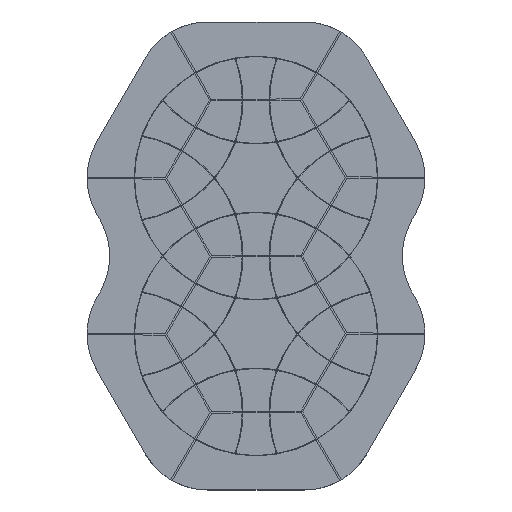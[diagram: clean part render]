
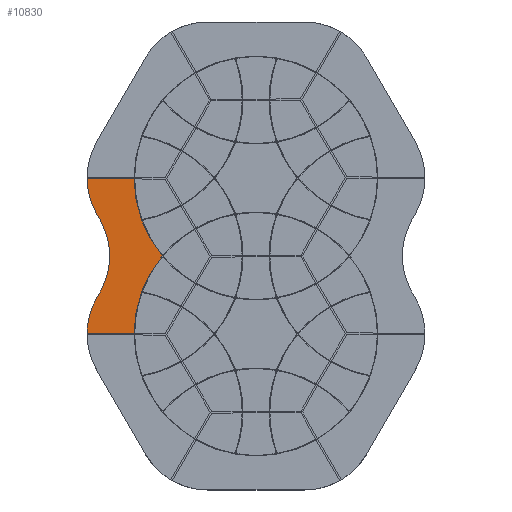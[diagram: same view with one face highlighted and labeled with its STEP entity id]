
A CAD part, top view. The second image highlights one B-rep face of the part: STEP entity #10830.
In plain terms, the highlighted planar face has unit normal (0, 0, 1).
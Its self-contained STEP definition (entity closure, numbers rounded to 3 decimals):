
#10830 = ADVANCED_FACE('',(#10831),#10910,.T.);
#10831 = FACE_BOUND('',#10832,.T.);
#10832 = EDGE_LOOP('',(#10833,#10844,#10852,#10861,#10869,#10878,#10887,
    #10895,#10904));
#10833 = ORIENTED_EDGE('',*,*,#10834,.F.);
#10834 = EDGE_CURVE('',#10835,#10837,#10839,.T.);
#10835 = VERTEX_POINT('',#10836);
#10836 = CARTESIAN_POINT('',(-69.238,-16.,10.08));
#10837 = VERTEX_POINT('',#10838);
#10838 = CARTESIAN_POINT('',(-69.238,16.,10.08));
#10839 = CIRCLE('',#10840,32.);
#10840 = AXIS2_PLACEMENT_3D('',#10841,#10842,#10843);
#10841 = CARTESIAN_POINT('',(-96.95,0.,10.08));
#10842 = DIRECTION('',(0.,0.,1.));
#10843 = DIRECTION('',(1.,0.,0.));
#10844 = ORIENTED_EDGE('',*,*,#10845,.T.);
#10845 = EDGE_CURVE('',#10835,#10846,#10848,.T.);
#10846 = VERTEX_POINT('',#10847);
#10847 = CARTESIAN_POINT('',(-70.762,-18.641,10.08));
#10848 = LINE('',#10849,#10850);
#10849 = CARTESIAN_POINT('',(-69.238,-16.,10.08));
#10850 = VECTOR('',#10851,1.);
#10851 = DIRECTION('',(-0.5,-0.866,0.));
#10852 = ORIENTED_EDGE('',*,*,#10853,.T.);
#10853 = EDGE_CURVE('',#10846,#10854,#10856,.T.);
#10854 = VERTEX_POINT('',#10855);
#10855 = CARTESIAN_POINT('',(-75.047,-34.241,10.08));
#10856 = CIRCLE('',#10857,32.);
#10857 = AXIS2_PLACEMENT_3D('',#10858,#10859,#10860);
#10858 = CARTESIAN_POINT('',(-43.05,-34.641,10.08));
#10859 = DIRECTION('',(0.,0.,1.));
#10860 = DIRECTION('',(1.,0.,0.));
#10861 = ORIENTED_EDGE('',*,*,#10862,.T.);
#10862 = EDGE_CURVE('',#10854,#10863,#10865,.T.);
#10863 = VERTEX_POINT('',#10864);
#10864 = CARTESIAN_POINT('',(-54.159,-34.241,10.08));
#10865 = LINE('',#10866,#10867);
#10866 = CARTESIAN_POINT('',(-75.047,-34.241,10.08));
#10867 = VECTOR('',#10868,1.);
#10868 = DIRECTION('',(1.,0.,0.));
#10869 = ORIENTED_EDGE('',*,*,#10870,.F.);
#10870 = EDGE_CURVE('',#10871,#10863,#10873,.T.);
#10871 = VERTEX_POINT('',#10872);
#10872 = CARTESIAN_POINT('',(-41.633,0.,10.08));
#10873 = CIRCLE('',#10874,54.16);
#10874 = AXIS2_PLACEMENT_3D('',#10875,#10876,#10877);
#10875 = CARTESIAN_POINT('',(0.,-34.641,10.08));
#10876 = DIRECTION('',(0.,0.,1.));
#10877 = DIRECTION('',(1.,0.,0.));
#10878 = ORIENTED_EDGE('',*,*,#10879,.F.);
#10879 = EDGE_CURVE('',#10880,#10871,#10882,.T.);
#10880 = VERTEX_POINT('',#10881);
#10881 = CARTESIAN_POINT('',(-54.159,34.241,10.08));
#10882 = CIRCLE('',#10883,54.16);
#10883 = AXIS2_PLACEMENT_3D('',#10884,#10885,#10886);
#10884 = CARTESIAN_POINT('',(0.,34.641,10.08));
#10885 = DIRECTION('',(0.,0.,1.));
#10886 = DIRECTION('',(1.,0.,0.));
#10887 = ORIENTED_EDGE('',*,*,#10888,.F.);
#10888 = EDGE_CURVE('',#10889,#10880,#10891,.T.);
#10889 = VERTEX_POINT('',#10890);
#10890 = CARTESIAN_POINT('',(-75.047,34.241,10.08));
#10891 = LINE('',#10892,#10893);
#10892 = CARTESIAN_POINT('',(-75.047,34.241,10.08));
#10893 = VECTOR('',#10894,1.);
#10894 = DIRECTION('',(1.,0.,0.));
#10895 = ORIENTED_EDGE('',*,*,#10896,.T.);
#10896 = EDGE_CURVE('',#10889,#10897,#10899,.T.);
#10897 = VERTEX_POINT('',#10898);
#10898 = CARTESIAN_POINT('',(-70.762,18.641,10.08));
#10899 = CIRCLE('',#10900,32.);
#10900 = AXIS2_PLACEMENT_3D('',#10901,#10902,#10903);
#10901 = CARTESIAN_POINT('',(-43.05,34.641,10.08));
#10902 = DIRECTION('',(0.,0.,1.));
#10903 = DIRECTION('',(1.,0.,0.));
#10904 = ORIENTED_EDGE('',*,*,#10905,.F.);
#10905 = EDGE_CURVE('',#10837,#10897,#10906,.T.);
#10906 = LINE('',#10907,#10908);
#10907 = CARTESIAN_POINT('',(-69.238,16.,10.08));
#10908 = VECTOR('',#10909,1.);
#10909 = DIRECTION('',(-0.5,0.866,0.));
#10910 = PLANE('',#10911);
#10911 = AXIS2_PLACEMENT_3D('',#10912,#10913,#10914);
#10912 = CARTESIAN_POINT('',(0.,0.,10.08));
#10913 = DIRECTION('',(0.,0.,1.));
#10914 = DIRECTION('',(1.,0.,0.));
